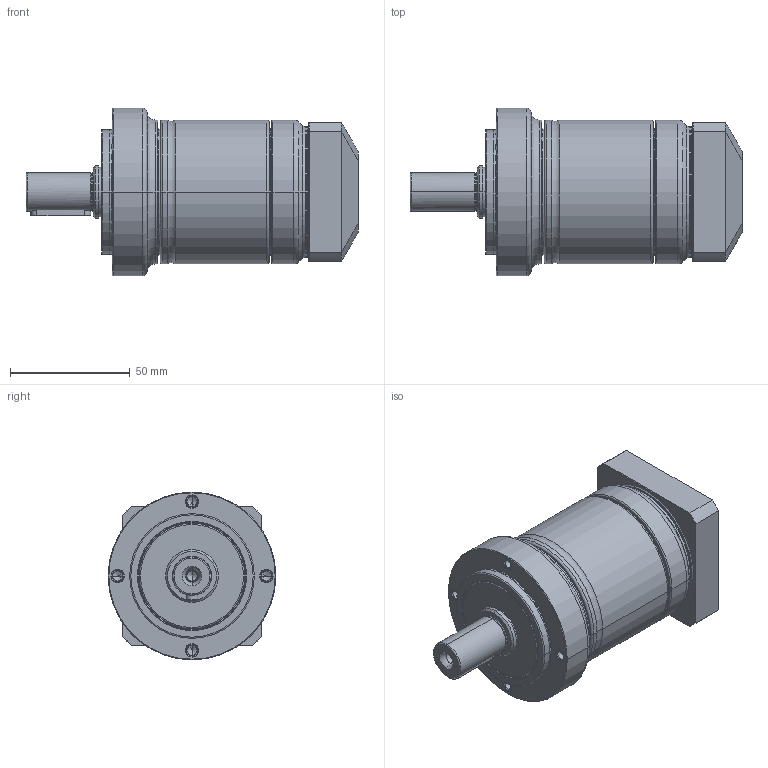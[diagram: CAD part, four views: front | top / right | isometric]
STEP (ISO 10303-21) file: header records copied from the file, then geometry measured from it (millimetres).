
FILE_DESCRIPTION((''),'2;1');
FILE_NAME('PE2-070_2ST_8-P0411100101_ASM','2016-04-27T',('d00435'),(''),'PRO/ENGINEER BY PARAMETRIC TECHNOLOGY CORPORATION, 2008410','PRO/ENGINEER BY PARAMETRIC TECHNOLOGY CORPORATION, 2008410','');
FILE_SCHEMA(('CONFIG_CONTROL_DESIGN'));
Length unit declared in the file: millimetre
Products named in the file (9): P1323210001; P0251200001; P1324200001; P0350201001; P0941200001; P0503100005; P0411100101; P1702300001; PE2-070_2ST_8-P0411100101_ASM
Assembly tree (8 placements, depth 2):
  PE2-070_2ST_8-P0411100101_ASM
    P1323210001
    P0251200001
    P1324200001
    P0350201001
    P0941200001
    P0503100005
    P0411100101
    P1702300001
Bounding box: 138.5 x 70 x 70 mm (x, y, z)
Volume: 246613.2 mm3; surface area: 75253 mm2
Topology: 8 solids, 22 shells, 518 faces, 1176 edges, 702 vertices
Faces by surface type: cylinder 166, cone 134, torus 106, plane 96, bspline 16
Entity records: 19750 total; most frequent: CARTESIAN_POINT 7755, DIRECTION 2751, ORIENTED_EDGE 2240, AXIS2_PLACEMENT_3D 1195, EDGE_CURVE 1148, VERTEX_POINT 702, CIRCLE 666, EDGE_LOOP 598
